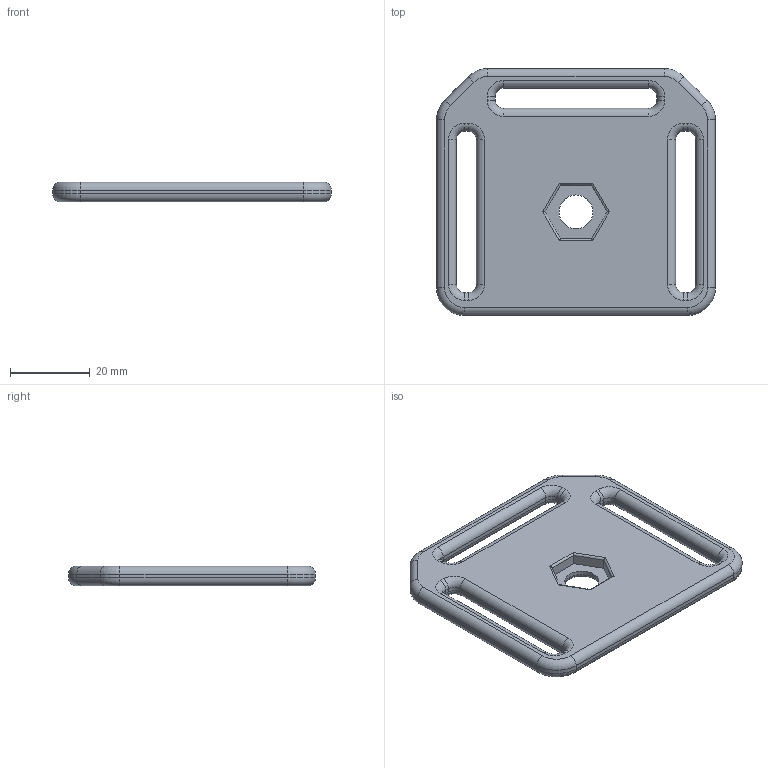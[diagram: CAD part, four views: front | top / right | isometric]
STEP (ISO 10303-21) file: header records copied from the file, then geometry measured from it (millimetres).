
FILE_DESCRIPTION((''),'2;1');
FILE_NAME('D:\Documents\Studium\Fächer\10. Semester\Studienarbeit\Design\Schläfenplatte.stp','2016-05-10T16:48:26',('Fabian'),(''),'Autodesk Inventor 2013','Autodesk Inventor 2013','');
FILE_SCHEMA(('AUTOMOTIVE_DESIGN { 1 0 10303 214 1 1 1 1 }'));
Length unit declared in the file: millimetre
Products named in the file (1): Schläfenplatte
Bounding box: 70 x 62 x 5 mm (x, y, z)
Volume: 16610.8 mm3; surface area: 8968.6 mm2
Topology: 1 solids, 1 shells, 125 faces, 287 edges, 165 vertices
Faces by surface type: cylinder 61, torus 37, plane 27
Full cylindrical faces by diameter (mm): 8.5 x1
Entity records: 3534 total; most frequent: DIRECTION 690, CARTESIAN_POINT 576, ORIENTED_EDGE 570, EDGE_CURVE 285, AXIS2_PLACEMENT_3D 279, VERTEX_POINT 165, CIRCLE 147, EDGE_LOOP 136
